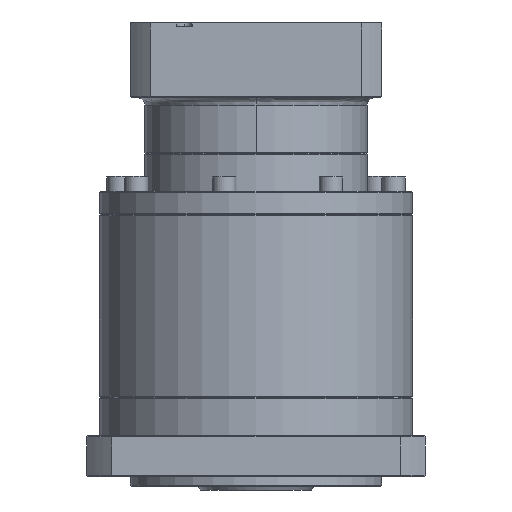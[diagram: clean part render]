
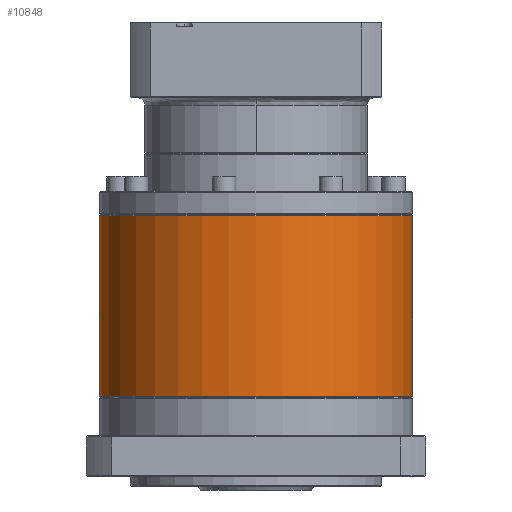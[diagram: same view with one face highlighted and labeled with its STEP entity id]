
A CAD part, left-side view. The second image highlights one B-rep face of the part: STEP entity #10848.
In plain terms, the highlighted cylindrical face has radius 81 mm (diameter 162 mm), a partial arc.
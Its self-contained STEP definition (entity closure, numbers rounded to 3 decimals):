
#3243 = CARTESIAN_POINT ( 'NONE',  ( -132.241, -39.319, -94.472 ) ) ;
#3933 = DIRECTION ( 'NONE',  ( 0., 0., -1. ) ) ;
#5562 = VECTOR ( 'NONE', #98320, 1000. ) ;
#5582 = DIRECTION ( 'NONE',  ( 0., 1., 0. ) ) ;
#10496 = CYLINDRICAL_SURFACE ( 'NONE', #98801, 81. ) ;
#10848 = ADVANCED_FACE ( 'NONE', ( #68360 ), #10496, .T. ) ;
#12842 = ORIENTED_EDGE ( 'NONE', *, *, #102988, .T. ) ;
#14449 = LINE ( 'NONE', #3243, #44545 ) ;
#15401 = VERTEX_POINT ( 'NONE', #41450 ) ;
#19682 = EDGE_CURVE ( 'NONE', #15401, #54906, #14449, .T. ) ;
#22959 = CARTESIAN_POINT ( 'NONE',  ( -132.241, 41.681, -94.472 ) ) ;
#26932 = VERTEX_POINT ( 'NONE', #44507 ) ;
#29420 = CARTESIAN_POINT ( 'NONE',  ( -132.241, 41.681, -188.472 ) ) ;
#34966 = CARTESIAN_POINT ( 'NONE',  ( -132.241, 122.681, -94.472 ) ) ;
#37454 = DIRECTION ( 'NONE',  ( 0., 0., 1. ) ) ;
#37641 = EDGE_LOOP ( 'NONE', ( #87754, #12842, #43247, #54424 ) ) ;
#37708 = CIRCLE ( 'NONE', #58101, 81. ) ;
#39844 = CARTESIAN_POINT ( 'NONE',  ( -132.241, -39.319, -188.472 ) ) ;
#40144 = CARTESIAN_POINT ( 'NONE',  ( -132.241, 41.681, -94.972 ) ) ;
#41450 = CARTESIAN_POINT ( 'NONE',  ( -132.241, -39.319, -94.972 ) ) ;
#43247 = ORIENTED_EDGE ( 'NONE', *, *, #100284, .T. ) ;
#44507 = CARTESIAN_POINT ( 'NONE',  ( -132.241, 122.681, -94.972 ) ) ;
#44545 = VECTOR ( 'NONE', #3933, 1000. ) ;
#48275 = DIRECTION ( 'NONE',  ( 0., 1., 0. ) ) ;
#48774 = CARTESIAN_POINT ( 'NONE',  ( -132.241, 122.681, -188.472 ) ) ;
#50741 = VERTEX_POINT ( 'NONE', #48774 ) ;
#54424 = ORIENTED_EDGE ( 'NONE', *, *, #97815, .T. ) ;
#54906 = VERTEX_POINT ( 'NONE', #39844 ) ;
#57674 = DIRECTION ( 'NONE',  ( 0., 0., -1. ) ) ;
#58052 = DIRECTION ( 'NONE',  ( 0., 1., 0. ) ) ;
#58101 = AXIS2_PLACEMENT_3D ( 'NONE', #29420, #37454, #5582 ) ;
#65645 = AXIS2_PLACEMENT_3D ( 'NONE', #40144, #96160, #48275 ) ;
#68360 = FACE_OUTER_BOUND ( 'NONE', #37641, .T. ) ;
#72132 = LINE ( 'NONE', #34966, #5562 ) ;
#87754 = ORIENTED_EDGE ( 'NONE', *, *, #19682, .F. ) ;
#96160 = DIRECTION ( 'NONE',  ( 0., 0., -1. ) ) ;
#97815 = EDGE_CURVE ( 'NONE', #50741, #54906, #37708, .T. ) ;
#98320 = DIRECTION ( 'NONE',  ( 0., 0., -1. ) ) ;
#98801 = AXIS2_PLACEMENT_3D ( 'NONE', #22959, #57674, #58052 ) ;
#100010 = CIRCLE ( 'NONE', #65645, 81. ) ;
#100284 = EDGE_CURVE ( 'NONE', #26932, #50741, #72132, .T. ) ;
#102988 = EDGE_CURVE ( 'NONE', #15401, #26932, #100010, .T. ) ;
